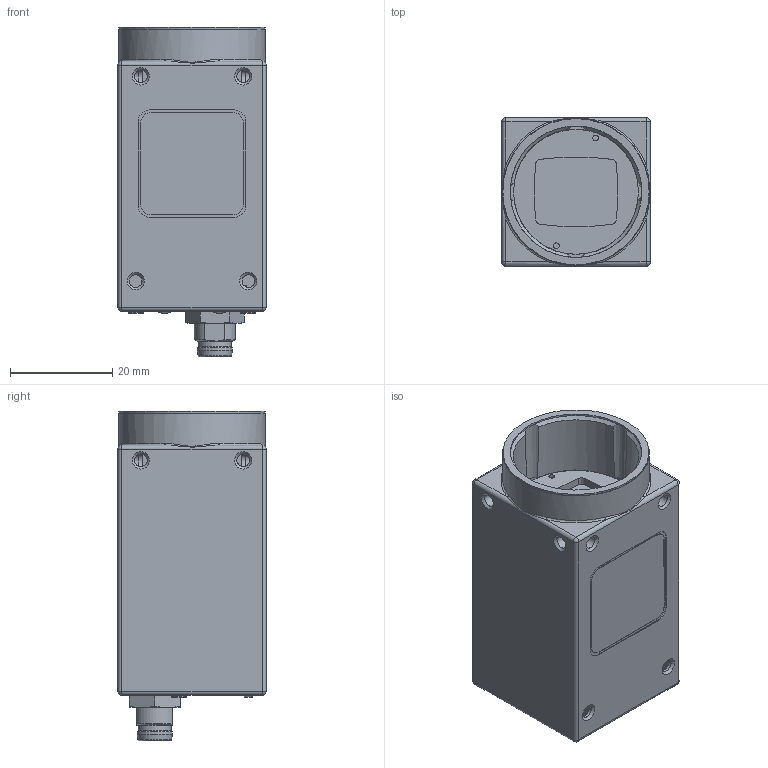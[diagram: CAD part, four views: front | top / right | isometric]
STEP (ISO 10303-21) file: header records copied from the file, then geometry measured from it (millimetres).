
FILE_DESCRIPTION( ( 'Unknown' ), '1' );
FILE_NAME( 'C:/Users/rih/Desktop/11165895_VCXG-123C.stp', '14.10.2014', ( 'Unknown' ), ( 'Unknown' ), 'PSStep 15.0.49', 'Unknown', ' ' );
FILE_SCHEMA( ( 'AUTOMOTIVE_DESIGN { 1 0 10303 214 1 1 1 1 }' ) );
Length unit declared in the file: millimetre
Products named in the file (3): 11149143
Bounding box: 29 x 29 x 64.38 mm (x, y, z)
Volume: 13603.2 mm3; surface area: 24106.8 mm2
Topology: 3 solids, 8 shells, 2495 faces, 6540 edges, 4284 vertices
Faces by surface type: plane 1446, cylinder 844, cone 72, torus 53, sphere 48, bspline 24, extrusion 8
Full cylindrical faces by diameter (mm): 0.217 x1, 0.6 x242, 1.1 x2, 1.4 x4, 1.567 x2, 1.6 x2, 1.9 x4, 2.459 x10, 3 x4, 6.5 x1, 6.9 x1, 8.4 x1, 9 x1, 9.4 x1, 24.4 x1, 25.7 x1, 26 x1, 28.6 x1, 28.7 x1
Entity records: 95046 total; most frequent: CARTESIAN_POINT 15916, DIRECTION 12297, ORIENTED_EDGE 11764, EDGE_CURVE 5882, AXIS2_PLACEMENT_3D 4347, VERTEX_POINT 3989, VECTOR 3603, LINE 3595
